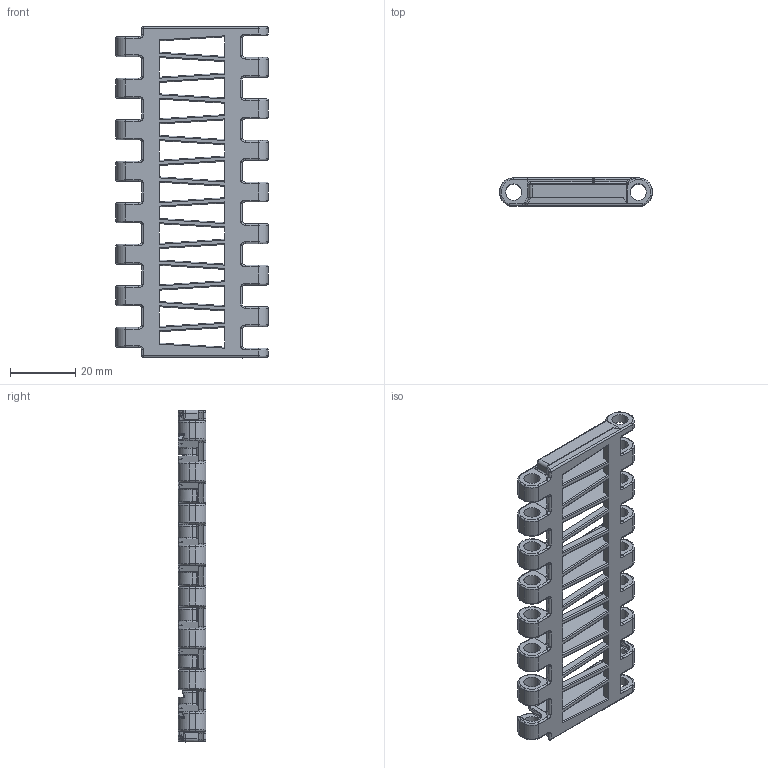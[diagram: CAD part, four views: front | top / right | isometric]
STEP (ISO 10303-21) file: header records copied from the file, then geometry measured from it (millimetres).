
FILE_DESCRIPTION((''),'2;1');
FILE_NAME('P397','2016-06-13T',('jas'),(''),'CREO PARAMETRIC BY PTC INC, 2016050','CREO PARAMETRIC BY PTC INC, 2016050','');
FILE_SCHEMA(('AUTOMOTIVE_DESIGN { 1 0 10303 214 1 1 1 1 }'));
Products named in the file (1): P397
Bounding box: 46.58 x 8.5 x 101.5 mm (x, y, z)
Volume: 11273.3 mm3; surface area: 13986.8 mm2
Topology: 1 solids, 1 shells, 2407 faces, 6498 edges, 4149 vertices
Faces by surface type: plane 1591, cylinder 447, bspline 187, torus 153, sphere 25, cone 4
Entity records: 89274 total; most frequent: CARTESIAN_POINT 29937, ORIENTED_EDGE 12996, DIRECTION 11067, EDGE_CURVE 6498, VECTOR 4975, LINE 4975, VERTEX_POINT 4149, AXIS2_PLACEMENT_3D 3046
